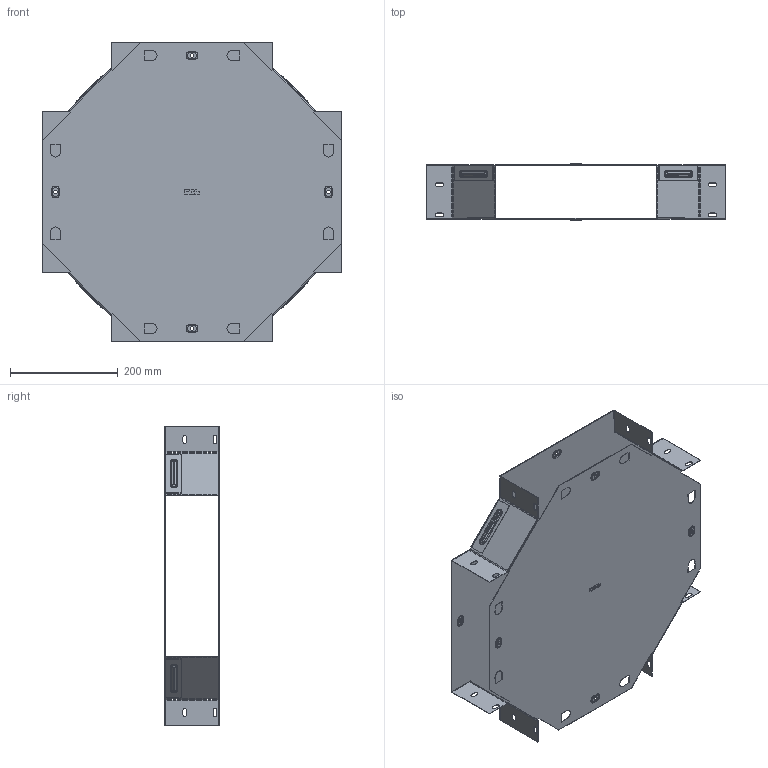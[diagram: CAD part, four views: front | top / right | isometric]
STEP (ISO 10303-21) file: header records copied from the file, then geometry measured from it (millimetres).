
FILE_DESCRIPTION (( 'STEP AP214' ), '1' );
FILE_NAME ('x10030008_捘.STEP', '2019-06-10T07:53:04', ( '砐錪賧瘔蠈錪 Windows' ), ( '' ), 'SwSTEP 2.0', 'SolidWorks 2018', '' );
FILE_SCHEMA (( 'AUTOMOTIVE_DESIGN' ));
Length unit declared in the file: millimetre
Products named in the file (1): x10030008_捘
Bounding box: 555.01 x 103.8 x 555.01 mm (x, y, z)
Volume: 469956.4 mm3; surface area: 1181747.5 mm2
Topology: 2 solids, 2 shells, 1078 faces, 3282 edges, 2140 vertices
Faces by surface type: plane 574, cylinder 358, torus 128, bspline 18
Entity records: 37889 total; most frequent: CARTESIAN_POINT 7459, ORIENTED_EDGE 6564, DIRECTION 6276, EDGE_CURVE 3282, VECTOR 2338, LINE 2338, VERTEX_POINT 2140, AXIS2_PLACEMENT_3D 1969
